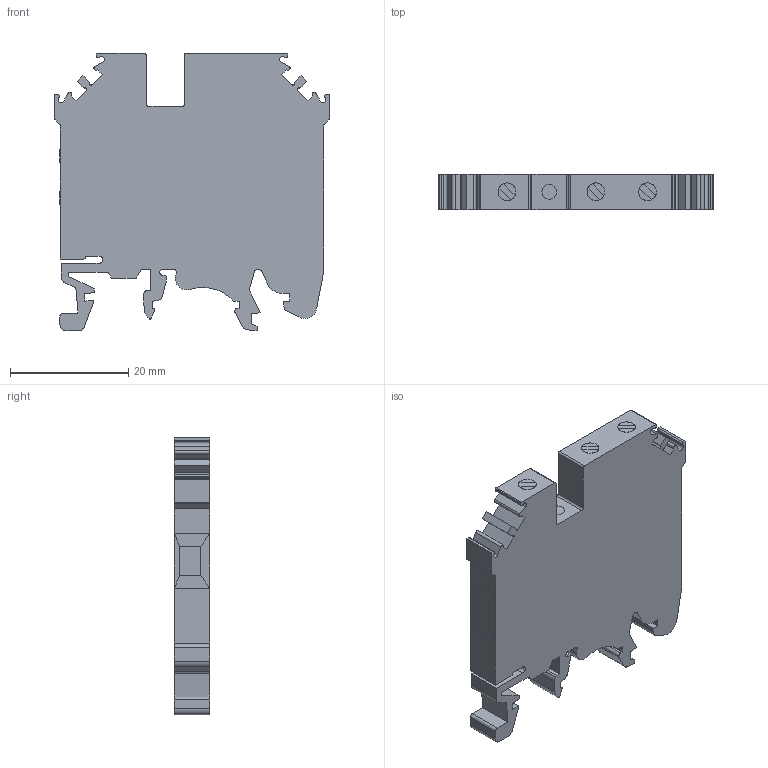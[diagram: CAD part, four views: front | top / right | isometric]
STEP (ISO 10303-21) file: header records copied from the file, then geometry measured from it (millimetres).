
FILE_DESCRIPTION( ( 'Unknown' ), '1' );
FILE_NAME( 'Z:/Product Configurator/3d/stp1/CMC1-2.stp', 'Unknown', ( 'Unknown' ), ( 'Unknown' ), 'PSStep 17.0.49', 'Unknown', ' ' );
FILE_SCHEMA( ( 'AUTOMOTIVE_DESIGN { 1 0 10303 214 1 1 1 1 }' ) );
Length unit declared in the file: millimetre
Products named in the file (1): 1
Bounding box: 46.5 x 6 x 47 mm (x, y, z)
Volume: 10048.5 mm3; surface area: 5191.1 mm2
Topology: 1 solids, 1 shells, 221 faces, 609 edges, 394 vertices
Faces by surface type: plane 158, cylinder 63
Full cylindrical faces by diameter (mm): 2.5 x1, 3 x3
Entity records: 8707 total; most frequent: CARTESIAN_POINT 1215, ORIENTED_EDGE 1204, DIRECTION 1181, EDGE_CURVE 602, LINE 467, VECTOR 467, VERTEX_POINT 391, AXIS2_PLACEMENT_3D 357
